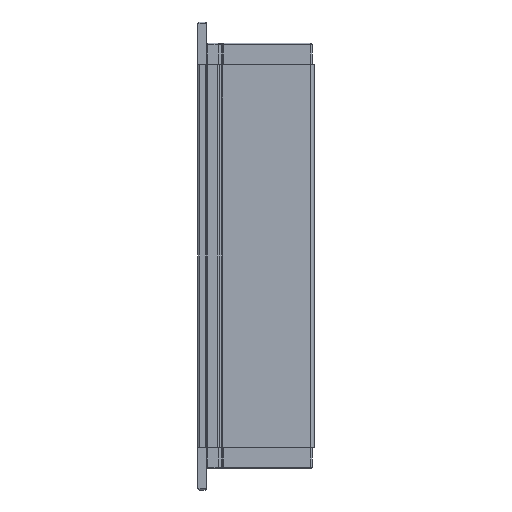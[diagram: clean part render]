
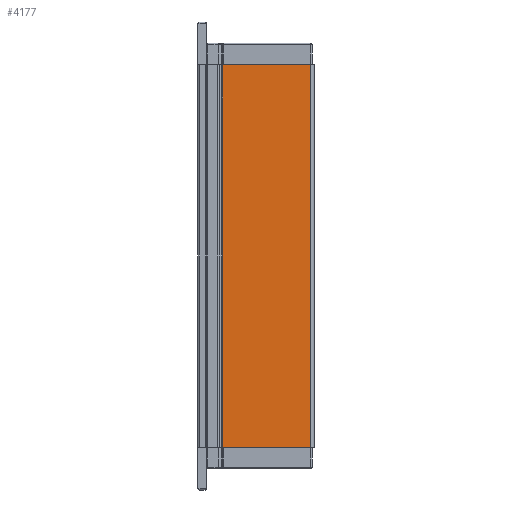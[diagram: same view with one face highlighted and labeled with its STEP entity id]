
A CAD part, left-side view. The second image highlights one B-rep face of the part: STEP entity #4177.
In plain terms, the highlighted planar face has unit normal (-1, 0, 0).
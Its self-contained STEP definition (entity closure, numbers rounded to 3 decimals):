
#160 = CARTESIAN_POINT ( 'NONE',  ( 2.7, -1.5, -90. ) ) ;
#442 = CARTESIAN_POINT ( 'NONE',  ( 2.7, -23.55, -90. ) ) ;
#495 = LINE ( 'NONE', #1710, #2634 ) ;
#1119 = VERTEX_POINT ( 'NONE', #1440 ) ;
#1440 = CARTESIAN_POINT ( 'NONE',  ( 2.7, -1.5, 0. ) ) ;
#1544 = DIRECTION ( 'NONE',  ( 0., -1., 0. ) ) ;
#1555 = PLANE ( 'NONE',  #4110 ) ;
#1575 = CARTESIAN_POINT ( 'NONE',  ( 2.7, -1.5, -90. ) ) ;
#1595 = DIRECTION ( 'NONE',  ( 0., 0., 1. ) ) ;
#1633 = DIRECTION ( 'NONE',  ( -1., 0., 0. ) ) ;
#1661 = VERTEX_POINT ( 'NONE', #442 ) ;
#1708 = DIRECTION ( 'NONE',  ( 0., 0., 1. ) ) ;
#1710 = CARTESIAN_POINT ( 'NONE',  ( 2.7, -23.55, -90. ) ) ;
#1823 = CARTESIAN_POINT ( 'NONE',  ( 2.7, -1.5, -90. ) ) ;
#1898 = EDGE_CURVE ( 'NONE', #1119, #3126, #4766, .T. ) ;
#1917 = ORIENTED_EDGE ( 'NONE', *, *, #2366, .T. ) ;
#2271 = EDGE_LOOP ( 'NONE', ( #5541, #1917, #5496, #5336 ) ) ;
#2366 = EDGE_CURVE ( 'NONE', #1661, #3126, #495, .T. ) ;
#2634 = VECTOR ( 'NONE', #1708, 1000. ) ;
#2947 = EDGE_CURVE ( 'NONE', #4533, #1119, #5134, .T. ) ;
#3126 = VERTEX_POINT ( 'NONE', #6522 ) ;
#3335 = VECTOR ( 'NONE', #4394, 1000. ) ;
#3497 = CARTESIAN_POINT ( 'NONE',  ( 2.7, -1.5, -90. ) ) ;
#4110 = AXIS2_PLACEMENT_3D ( 'NONE', #1575, #1633, #1544 ) ;
#4177 = ADVANCED_FACE ( 'NONE', ( #5624 ), #1555, .T. ) ;
#4394 = DIRECTION ( 'NONE',  ( 0., -1., 0. ) ) ;
#4441 = CARTESIAN_POINT ( 'NONE',  ( 2.7, -1.5, 0. ) ) ;
#4533 = VERTEX_POINT ( 'NONE', #160 ) ;
#4766 = LINE ( 'NONE', #4441, #3335 ) ;
#5134 = LINE ( 'NONE', #1823, #6381 ) ;
#5336 = ORIENTED_EDGE ( 'NONE', *, *, #2947, .F. ) ;
#5496 = ORIENTED_EDGE ( 'NONE', *, *, #1898, .F. ) ;
#5541 = ORIENTED_EDGE ( 'NONE', *, *, #6152, .T. ) ;
#5624 = FACE_OUTER_BOUND ( 'NONE', #2271, .T. ) ;
#6152 = EDGE_CURVE ( 'NONE', #4533, #1661, #6674, .T. ) ;
#6381 = VECTOR ( 'NONE', #1595, 1000. ) ;
#6522 = CARTESIAN_POINT ( 'NONE',  ( 2.7, -23.55, 0. ) ) ;
#6624 = VECTOR ( 'NONE', #6714, 1000. ) ;
#6674 = LINE ( 'NONE', #3497, #6624 ) ;
#6714 = DIRECTION ( 'NONE',  ( 0., -1., 0. ) ) ;
